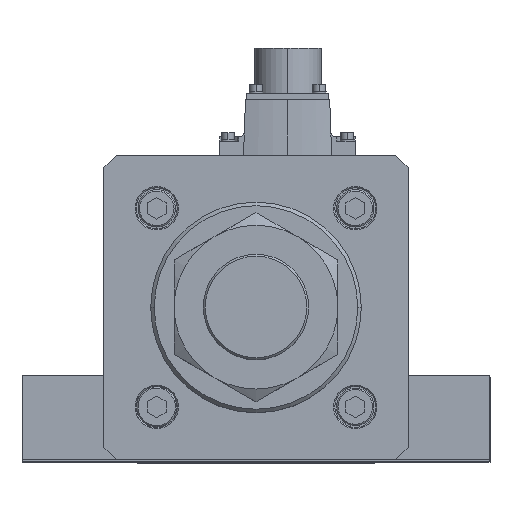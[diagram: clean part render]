
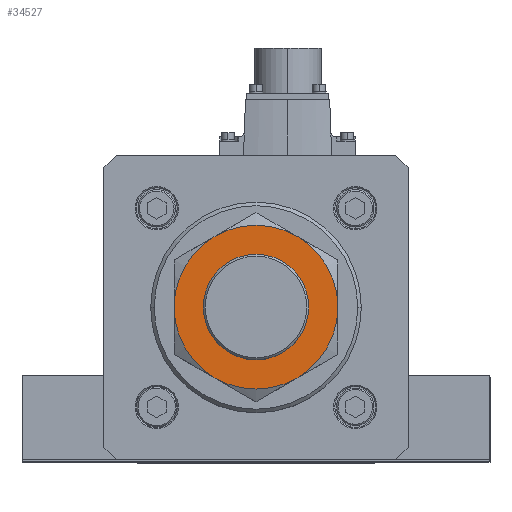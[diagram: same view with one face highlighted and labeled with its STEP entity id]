
A CAD part, top view. The second image highlights one B-rep face of the part: STEP entity #34527.
In plain terms, the highlighted planar face has unit normal (0, 0, 1).
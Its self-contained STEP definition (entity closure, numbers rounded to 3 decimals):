
#204 = DIRECTION ( 'NONE',  ( 0., 0., -1. ) ) ;
#1179 = AXIS2_PLACEMENT_3D ( 'NONE', #15292, #23798, #26773 ) ;
#1716 = VERTEX_POINT ( 'NONE', #28815 ) ;
#2400 = CARTESIAN_POINT ( 'NONE',  ( 22.5, 0., 27. ) ) ;
#4314 = DIRECTION ( 'NONE',  ( 0., 0., -1. ) ) ;
#4899 = ORIENTED_EDGE ( 'NONE', *, *, #25482, .F. ) ;
#5835 = DIRECTION ( 'NONE',  ( 0., 0., 1. ) ) ;
#6091 = ORIENTED_EDGE ( 'NONE', *, *, #28827, .F. ) ;
#7278 = DIRECTION ( 'NONE',  ( 1., 0., 0. ) ) ;
#7522 = AXIS2_PLACEMENT_3D ( 'NONE', #8255, #13665, #16864 ) ;
#7939 = EDGE_CURVE ( 'NONE', #17621, #28809, #8852, .T. ) ;
#7952 = ORIENTED_EDGE ( 'NONE', *, *, #20847, .F. ) ;
#8255 = CARTESIAN_POINT ( 'NONE',  ( 0., 0., 27. ) ) ;
#8852 = CIRCLE ( 'NONE', #21132, 22.5 ) ;
#9389 = DIRECTION ( 'NONE',  ( -1., 0., 0. ) ) ;
#9869 = DIRECTION ( 'NONE',  ( 0., 0., 1. ) ) ;
#10008 = CARTESIAN_POINT ( 'NONE',  ( 0., 0., 27. ) ) ;
#10388 = CIRCLE ( 'NONE', #7522, 35. ) ;
#10410 = EDGE_CURVE ( 'NONE', #14427, #1716, #20698, .T. ) ;
#10418 = DIRECTION ( 'NONE',  ( -1., 0., 0. ) ) ;
#12531 = VERTEX_POINT ( 'NONE', #28656 ) ;
#12823 = PLANE ( 'NONE',  #32524 ) ;
#13050 = EDGE_LOOP ( 'NONE', ( #37206, #29119, #7952, #6091, #15152, #19681 ) ) ;
#13665 = DIRECTION ( 'NONE',  ( 0., 0., -1. ) ) ;
#14427 = VERTEX_POINT ( 'NONE', #25407 ) ;
#15152 = ORIENTED_EDGE ( 'NONE', *, *, #21489, .F. ) ;
#15292 = CARTESIAN_POINT ( 'NONE',  ( 0., 0., 27. ) ) ;
#16217 = VERTEX_POINT ( 'NONE', #20651 ) ;
#16458 = CARTESIAN_POINT ( 'NONE',  ( 0., 0., 27. ) ) ;
#16864 = DIRECTION ( 'NONE',  ( -1., 0., 0. ) ) ;
#16913 = CIRCLE ( 'NONE', #20732, 35. ) ;
#17394 = CARTESIAN_POINT ( 'NONE',  ( -35., 0., 27. ) ) ;
#17621 = VERTEX_POINT ( 'NONE', #2400 ) ;
#17717 = AXIS2_PLACEMENT_3D ( 'NONE', #16458, #25607, #10418 ) ;
#17855 = EDGE_CURVE ( 'NONE', #1716, #31381, #34953, .T. ) ;
#18420 = DIRECTION ( 'NONE',  ( 0., 0., 1. ) ) ;
#18510 = CARTESIAN_POINT ( 'NONE',  ( 0., 0., 27. ) ) ;
#19681 = ORIENTED_EDGE ( 'NONE', *, *, #33625, .F. ) ;
#20133 = ORIENTED_EDGE ( 'NONE', *, *, #7939, .F. ) ;
#20433 = FACE_OUTER_BOUND ( 'NONE', #13050, .T. ) ;
#20651 = CARTESIAN_POINT ( 'NONE',  ( -17.5, -30.311, 27. ) ) ;
#20698 = CIRCLE ( 'NONE', #17717, 35. ) ;
#20732 = AXIS2_PLACEMENT_3D ( 'NONE', #29790, #204, #20853 ) ;
#20847 = EDGE_CURVE ( 'NONE', #12531, #14427, #36809, .T. ) ;
#20853 = DIRECTION ( 'NONE',  ( -1., 0., 0. ) ) ;
#21132 = AXIS2_PLACEMENT_3D ( 'NONE', #37142, #18420, #24348 ) ;
#21225 = CARTESIAN_POINT ( 'NONE',  ( -22.5, 0., 27. ) ) ;
#21489 = EDGE_CURVE ( 'NONE', #16217, #26078, #16913, .T. ) ;
#23798 = DIRECTION ( 'NONE',  ( 0., 0., -1. ) ) ;
#24335 = CARTESIAN_POINT ( 'NONE',  ( 0., 0., 27. ) ) ;
#24348 = DIRECTION ( 'NONE',  ( 1., 0., 0. ) ) ;
#25397 = CIRCLE ( 'NONE', #1179, 35. ) ;
#25407 = CARTESIAN_POINT ( 'NONE',  ( 17.5, 30.311, 27. ) ) ;
#25482 = EDGE_CURVE ( 'NONE', #28809, #17621, #28666, .T. ) ;
#25607 = DIRECTION ( 'NONE',  ( 0., 0., -1. ) ) ;
#25704 = CARTESIAN_POINT ( 'NONE',  ( 17.5, -30.311, 27. ) ) ;
#26078 = VERTEX_POINT ( 'NONE', #17394 ) ;
#26154 = AXIS2_PLACEMENT_3D ( 'NONE', #10008, #4314, #30664 ) ;
#26592 = CARTESIAN_POINT ( 'NONE',  ( 0., 0., 27. ) ) ;
#26773 = DIRECTION ( 'NONE',  ( -1., 0., 0. ) ) ;
#27067 = DIRECTION ( 'NONE',  ( 0., 0., -1. ) ) ;
#28656 = CARTESIAN_POINT ( 'NONE',  ( -17.5, 30.311, 27. ) ) ;
#28666 = CIRCLE ( 'NONE', #34011, 22.5 ) ;
#28809 = VERTEX_POINT ( 'NONE', #21225 ) ;
#28815 = CARTESIAN_POINT ( 'NONE',  ( 35., 0., 27. ) ) ;
#28827 = EDGE_CURVE ( 'NONE', #26078, #12531, #25397, .T. ) ;
#29119 = ORIENTED_EDGE ( 'NONE', *, *, #10410, .F. ) ;
#29316 = DIRECTION ( 'NONE',  ( 1., 0., 0. ) ) ;
#29790 = CARTESIAN_POINT ( 'NONE',  ( 0., 0., 27. ) ) ;
#30664 = DIRECTION ( 'NONE',  ( -1., 0., 0. ) ) ;
#31381 = VERTEX_POINT ( 'NONE', #25704 ) ;
#32524 = AXIS2_PLACEMENT_3D ( 'NONE', #18510, #9869, #7278 ) ;
#33625 = EDGE_CURVE ( 'NONE', #31381, #16217, #10388, .T. ) ;
#34011 = AXIS2_PLACEMENT_3D ( 'NONE', #26592, #5835, #29316 ) ;
#34527 = ADVANCED_FACE ( 'NONE', ( #20433, #35245 ), #12823, .T. ) ;
#34953 = CIRCLE ( 'NONE', #37964, 35. ) ;
#35245 = FACE_BOUND ( 'NONE', #35626, .T. ) ;
#35626 = EDGE_LOOP ( 'NONE', ( #4899, #20133 ) ) ;
#36809 = CIRCLE ( 'NONE', #26154, 35. ) ;
#37142 = CARTESIAN_POINT ( 'NONE',  ( 0., 0., 27. ) ) ;
#37206 = ORIENTED_EDGE ( 'NONE', *, *, #17855, .F. ) ;
#37964 = AXIS2_PLACEMENT_3D ( 'NONE', #24335, #27067, #9389 ) ;
